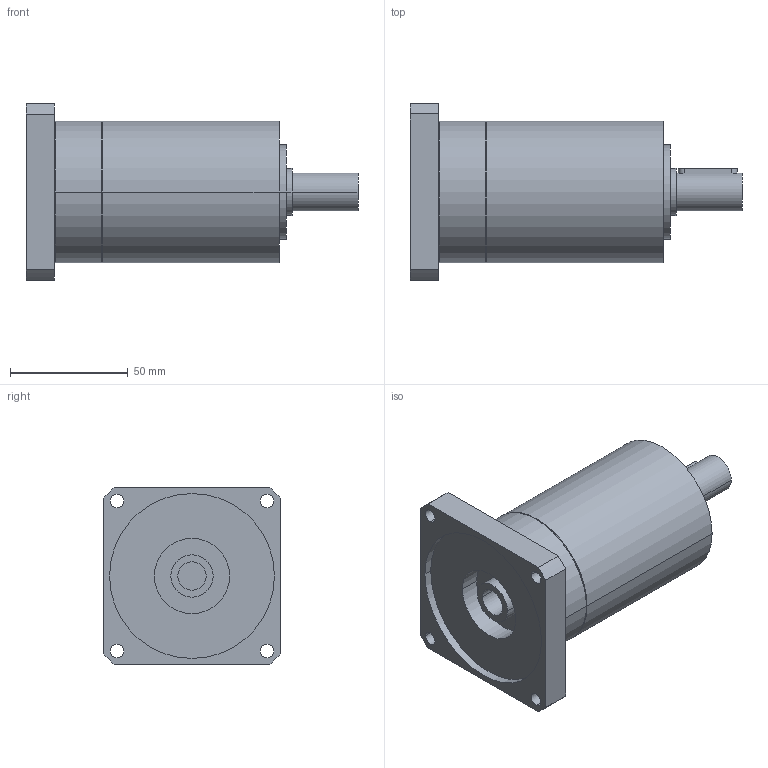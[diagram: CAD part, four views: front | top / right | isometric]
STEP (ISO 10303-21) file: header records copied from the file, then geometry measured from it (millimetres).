
FILE_DESCRIPTION(('CoCreate Modeling STEP Export'),'2;1');
FILE_NAME('GPR75_ig-9-12-16-20-24-30-36_16_B14_12_P24.stp','2014-08-25T16:32:49',(''),(''),'CoCreate Modeling STEP processor for AP214 (Solid Model)','CoCreate Modeling 16.00C 25-Feb-2009 (C) Parametric Technology GmbH','');
FILE_SCHEMA(('AUTOMOTIVE_DESIGN { 1 0 10303 214 1 1 1 1 }'));
Length unit declared in the file: millimetre
Products named in the file (2): GPR75_ig-9-12-16-20-24-30-36_16_B14_12_P24
Assembly tree (1 placements, depth 2):
  GPR75_ig-9-12-16-20-24-30-36_16_B14_12_P24
    GPR75_ig-9-12-16-20-24-30-36_16_B14_12_P24
Bounding box: 141 x 75 x 75 mm (x, y, z)
Volume: 323099.5 mm3; surface area: 43245.2 mm2
Topology: 1 solids, 1 shells, 73 faces, 197 edges, 139 vertices
Faces by surface type: cylinder 44, plane 23, cone 6
Entity records: 2019 total; most frequent: ORIENTED_EDGE 390, CARTESIAN_POINT 373, DIRECTION 272, EDGE_CURVE 195, VERTEX_POINT 139, AXIS2_PLACEMENT_3D 102, EDGE_LOOP 96, FACE_OUTER_BOUND 73
